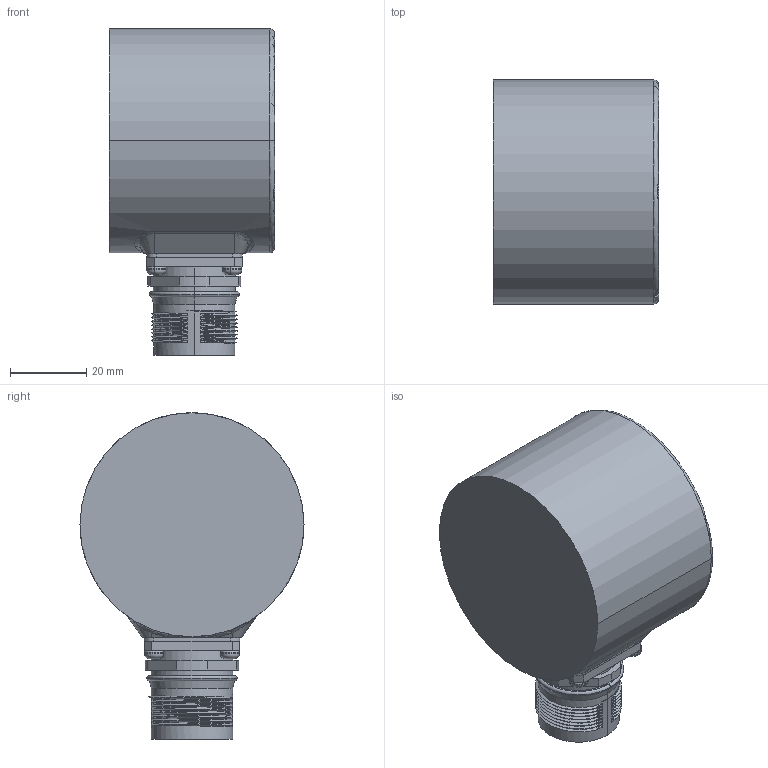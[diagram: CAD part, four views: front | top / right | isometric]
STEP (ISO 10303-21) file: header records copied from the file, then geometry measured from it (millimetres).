
FILE_DESCRIPTION (( 'STEP AP203' ), '1' );
FILE_NAME ('Drawing-OC-5-CR-432-SWS-NNNZ1B-Y-PRP-N.STEP', '2018-06-26T09:22:21', ( '' ), ( '' ), 'SwSTEP 2.0', 'SolidWorks 2018', '' );
FILE_SCHEMA (( 'CONFIG_CONTROL_DESIGN' ));
Length unit declared in the file: millimetre
Products named in the file (1): Drawing-OC-5-CR-432-SWS-NNNZ1B-Y-PRP-N
Bounding box: 43.2 x 58.6 x 85.4 mm (x, y, z)
Volume: 123736.1 mm3; surface area: 23581.5 mm2
Topology: 17 solids, 18 shells, 1108 faces, 2843 edges, 1808 vertices
Faces by surface type: plane 339, cone 223, cylinder 221, bspline 191, torus 102, sphere 32
Entity records: 49201 total; most frequent: CARTESIAN_POINT 23560, ORIENTED_EDGE 5530, DIRECTION 5045, EDGE_CURVE 2765, AXIS2_PLACEMENT_3D 1981, VERTEX_POINT 1776, EDGE_LOOP 1233, FACE_OUTER_BOUND 1108
